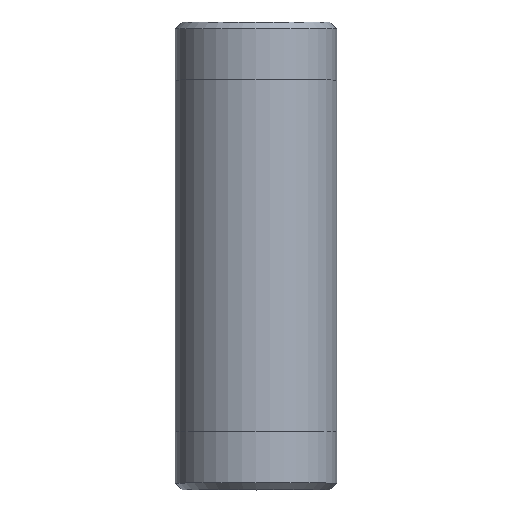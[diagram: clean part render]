
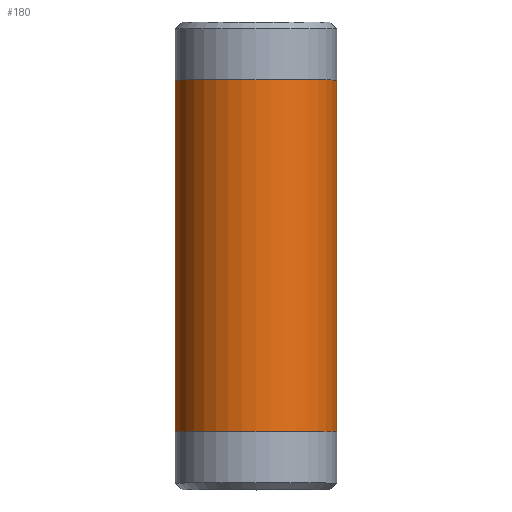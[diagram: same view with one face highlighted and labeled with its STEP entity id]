
A CAD part, top view. The second image highlights one B-rep face of the part: STEP entity #180.
In plain terms, the highlighted cylindrical face has radius 24.13 mm (diameter 48.26 mm), a full revolution.
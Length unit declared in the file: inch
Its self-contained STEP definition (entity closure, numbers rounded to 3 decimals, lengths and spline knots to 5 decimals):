
#25=CYLINDRICAL_SURFACE('',#220,0.95);
#34=FACE_OUTER_BOUND('',#47,.T.);
#47=EDGE_LOOP('',(#155,#156,#157,#158,#159,#160));
#55=LINE('',#338,#61);
#61=VECTOR('',#283,0.95);
#77=CIRCLE('',#218,0.95);
#78=CIRCLE('',#219,0.95);
#79=CIRCLE('',#221,0.95);
#80=CIRCLE('',#222,0.95);
#95=VERTEX_POINT('',#329);
#96=VERTEX_POINT('',#330);
#97=VERTEX_POINT('',#334);
#98=VERTEX_POINT('',#335);
#117=EDGE_CURVE('',#95,#96,#77,.T.);
#118=EDGE_CURVE('',#96,#95,#78,.T.);
#119=EDGE_CURVE('',#97,#98,#79,.T.);
#120=EDGE_CURVE('',#98,#97,#80,.T.);
#121=EDGE_CURVE('',#98,#96,#55,.T.);
#155=ORIENTED_EDGE('',*,*,#119,.F.);
#156=ORIENTED_EDGE('',*,*,#120,.F.);
#157=ORIENTED_EDGE('',*,*,#121,.T.);
#158=ORIENTED_EDGE('',*,*,#118,.T.);
#159=ORIENTED_EDGE('',*,*,#117,.T.);
#160=ORIENTED_EDGE('',*,*,#121,.F.);
#180=ADVANCED_FACE('',(#34),#25,.T.);
#218=AXIS2_PLACEMENT_3D('',#331,#273,#274);
#219=AXIS2_PLACEMENT_3D('',#332,#275,#276);
#220=AXIS2_PLACEMENT_3D('',#333,#277,#278);
#221=AXIS2_PLACEMENT_3D('',#336,#279,#280);
#222=AXIS2_PLACEMENT_3D('',#337,#281,#282);
#273=DIRECTION('center_axis',(0.,-1.,0.));
#274=DIRECTION('ref_axis',(1.,0.,0.));
#275=DIRECTION('center_axis',(0.,-1.,0.));
#276=DIRECTION('ref_axis',(1.,0.,0.));
#277=DIRECTION('center_axis',(0.,-1.,0.));
#278=DIRECTION('ref_axis',(0.,0.,-1.));
#279=DIRECTION('center_axis',(0.,-1.,0.));
#280=DIRECTION('ref_axis',(1.,0.,0.));
#281=DIRECTION('center_axis',(0.,-1.,0.));
#282=DIRECTION('ref_axis',(1.,0.,0.));
#283=DIRECTION('',(0.,1.,0.));
#329=CARTESIAN_POINT('',(0.,4.819,-0.95));
#330=CARTESIAN_POINT('',(0.,4.819,0.95));
#331=CARTESIAN_POINT('Origin',(0.,4.819,0.));
#332=CARTESIAN_POINT('Origin',(0.,4.819,0.));
#333=CARTESIAN_POINT('Origin',(0.,2.75,0.));
#334=CARTESIAN_POINT('',(0.,0.681,-0.95));
#335=CARTESIAN_POINT('',(0.,0.681,0.95));
#336=CARTESIAN_POINT('Origin',(0.,0.681,0.));
#337=CARTESIAN_POINT('Origin',(0.,0.681,0.));
#338=CARTESIAN_POINT('',(0.,2.75,0.95));
